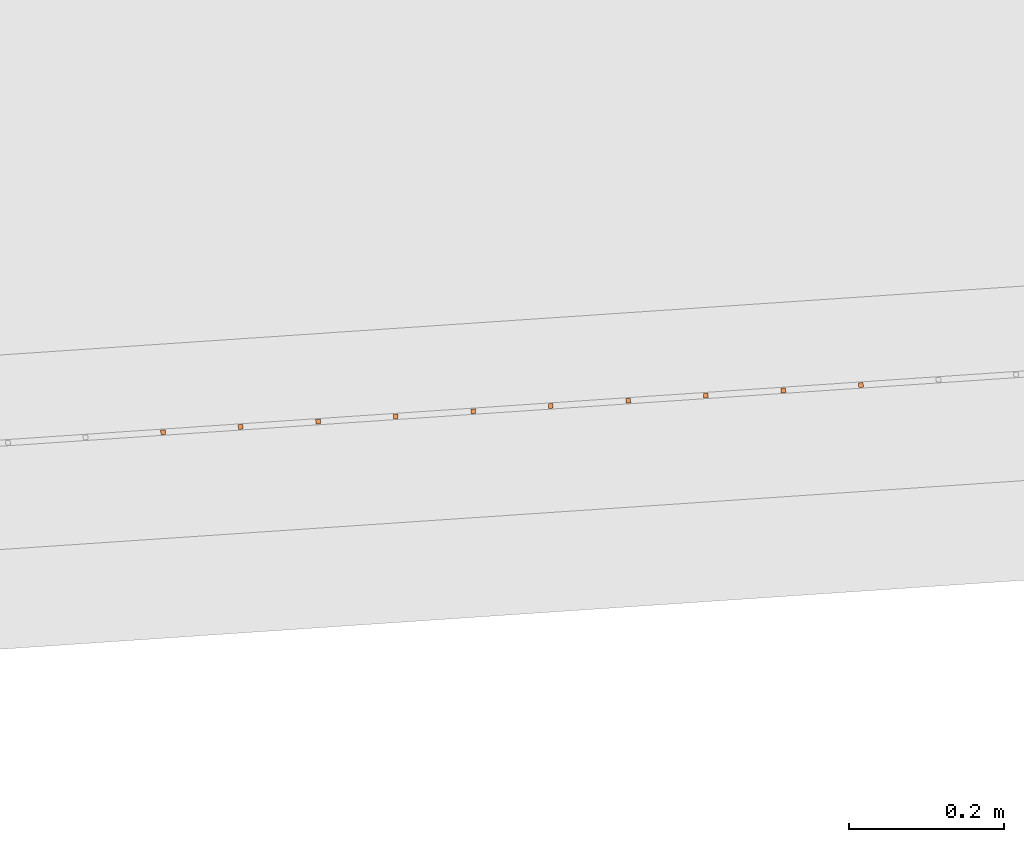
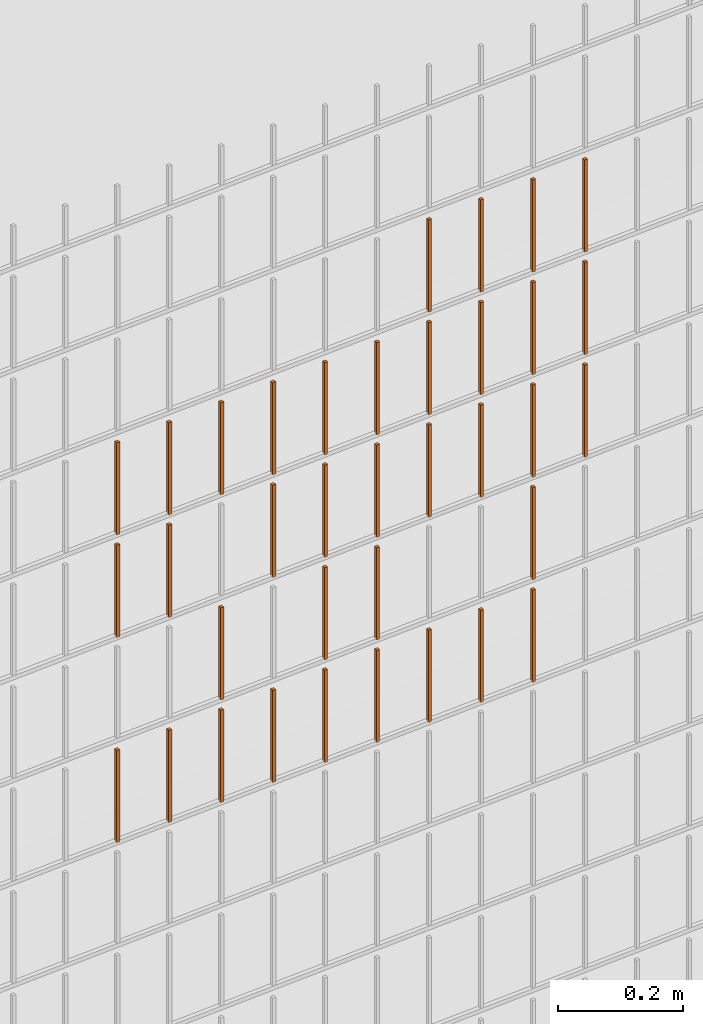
# One storey, part 158 of 1809: 36 proxies, 1 element without a shape of its own.
"""IFC2X3 building model written with IfcOpenShell, lengths in millimetres."""

from ifc_helpers import new_model, entity, si_unit, converted_unit, derived_unit, money_unit, direction, frame, origin_with_axes, place, context, subcontext, project, spatial, faceted_brep, source, transform, mapped, material, type_object, element, aggregate, save


model = new_model("IFC2X3")

# Units and contexts
model_context = context("Model", 3, precision=0.01, world=origin_with_axes(), true_north=direction((0.0, 1.0)))
body_context = subcontext(model_context, "Body", "Model", "MODEL_VIEW")
ifc_project = project(units=[si_unit("LENGTHUNIT", "METRE", prefix="MILLI"), si_unit("AREAUNIT", "SQUARE_METRE"), si_unit("VOLUMEUNIT", "CUBIC_METRE"), converted_unit("PLANEANGLEUNIT", "DEGREE", entity("IfcPlaneAngleMeasure", 0.0174532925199), si_unit("PLANEANGLEUNIT", "RADIAN"), dimensions=[0, 0, 0, 0, 0, 0, 0]), si_unit("SOLIDANGLEUNIT", "STERADIAN"), money_unit("EUR"), converted_unit("TIMEUNIT", "Year", entity("IfcTimeMeasure", 31556926.0), si_unit("TIMEUNIT", "SECOND"), dimensions=[0, 0, 1, 0, 0, 0, 0]), si_unit("MASSUNIT", "GRAM", prefix="KILO"), si_unit("THERMODYNAMICTEMPERATUREUNIT", "DEGREE_CELSIUS"), si_unit("LUMINOUSINTENSITYUNIT", "LUMEN"), si_unit("ENERGYUNIT", "JOULE", prefix="MEGA"), derived_unit("THERMALCONDUCTANCEUNIT", [(si_unit("POWERUNIT", "WATT"), 1), (si_unit("LENGTHUNIT", "METRE"), -1), (si_unit("THERMODYNAMICTEMPERATUREUNIT", "KELVIN"), -1)]), derived_unit("SPECIFICHEATCAPACITYUNIT", [(si_unit("ENERGYUNIT", "JOULE"), 1), (si_unit("MASSUNIT", "GRAM", prefix="KILO"), -1), (si_unit("THERMODYNAMICTEMPERATUREUNIT", "KELVIN"), -1)]), derived_unit("MASSDENSITYUNIT", [(si_unit("MASSUNIT", "GRAM", prefix="KILO"), 1), (si_unit("VOLUMEUNIT", "CUBIC_METRE"), -1)])], contexts=[model_context])

# Site, building, storey
site_placement = place(None, origin_with_axes())
site = spatial("IfcSite", under=ifc_project, at=site_placement, Name="Politse- ja Piirivalveameti ning Päästeameti ühishoone", CompositionType="ELEMENT")
building_placement = place(site_placement, origin_with_axes())
building = spatial("IfcBuilding", under=site, at=building_placement, Name="Politse- ja Piirivalveameti ning Päästeameti ühishoone", CompositionType="ELEMENT")
storey_placement = place(building_placement, origin_with_axes())
storey = spatial("IfcBuildingStorey", under=building, at=storey_placement, Name="Esimene korrus", CompositionType="ELEMENT", Elevation=0.0)

# Proxies
building_element_proxy_type_1 = type_object("IfcBuildingElementProxyType", Name="Railing Type", PredefinedType="NOTDEFINED")
proxy_1_placement = place(storey_placement, frame((89252.001212, -29183.4766571, 203.661247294), z_axis=(0.0, 0.0, 1.0), x_axis=(1.0, 0.0, 0.0)))
proxy_1 = element("IfcBuildingElementProxy", 1, at=proxy_1_placement, inside=storey, type_object=building_element_proxy_type_1, Name="PIIRDEAED")
ifc_material = material(Name="ET-03_Raud")
building_element_proxy_type_2 = type_object("IfcBuildingElementProxyType", Name="IfcBuildingElementProxy", PredefinedType="NOTDEFINED")
shared_shape_1 = source(origin_with_axes(), body_context, "Body", "Brep", [
    faceted_brep([(3.0, 3.0, -0.000752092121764), (-3.0, 3.0, -0.000752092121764), (-3.0, 3.0, 179.99926046), (3.0, 3.0, 179.99926046), (3.0, -3.0, 0.000752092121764), (-3.0, -3.0, 0.000752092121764), (-3.0, -3.0, 180.000764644), (3.0, -3.0, 180.000764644)], [[[0, 1, 2, 3]], [[0, 4, 5, 1]], [[1, 5, 6, 2]], [[3, 2, 6, 7]], [[4, 0, 3, 7]], [[5, 4, 7, 6]]]),
])
proxy_2_placement = place(proxy_1_placement, frame((-80343.6129789, -22724.6826125, 807.046556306), z_axis=(0.0, 0.0, 1.0), x_axis=(1.0, 0.0, 0.0)))
proxy_2 = element("IfcBuildingElementProxy", 2, at=proxy_2_placement, type_object=building_element_proxy_type_2, material=ifc_material, Name="BALUSTER - 001", context=body_context, shape_type="MappedRepresentation", body=[
    mapped(shared_shape_1, transform((0.0, 0.0, 0.0), x_axis=(-0.0673926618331, 0.997726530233, 0.0), y_axis=(-0.997726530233, -0.0673926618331, 0.0), z_axis=(0.0, 0.0, 1.0))),
])
proxy_3_placement = place(proxy_1_placement, frame((-81042.0215501, -22771.8574758, 806.871068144), z_axis=(0.0, 0.0, 1.0), x_axis=(1.0, 0.0, 0.0)))
proxy_3 = element("IfcBuildingElementProxy", 3, at=proxy_3_placement, type_object=building_element_proxy_type_2, material=ifc_material, Name="BALUSTER - 001", context=body_context, shape_type="MappedRepresentation", body=[
    mapped(shared_shape_1, transform((0.0, 0.0, 0.0), x_axis=(-0.0673926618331, 0.997726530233, 0.0), y_axis=(-0.997726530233, -0.0673926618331, 0.0), z_axis=(0.0, 0.0, 1.0))),
])
proxy_4_placement = place(proxy_1_placement, frame((-80343.6129789, -22724.6826125, 1207.04655631), z_axis=(0.0, 0.0, 1.0), x_axis=(1.0, 0.0, 0.0)))
proxy_4 = element("IfcBuildingElementProxy", 4, at=proxy_4_placement, type_object=building_element_proxy_type_2, material=ifc_material, Name="BALUSTER - 001", context=body_context, shape_type="MappedRepresentation", body=[
    mapped(shared_shape_1, transform((0.0, 0.0, 0.0), x_axis=(-0.0673926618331, 0.997726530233, 0.0), y_axis=(-0.997726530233, -0.0673926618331, 0.0), z_axis=(0.0, 0.0, 1.0))),
])
proxy_5_placement = place(proxy_1_placement, frame((-81042.0215501, -22771.8574758, 1206.87106814), z_axis=(0.0, 0.0, 1.0), x_axis=(1.0, 0.0, 0.0)))
proxy_5 = element("IfcBuildingElementProxy", 5, at=proxy_5_placement, type_object=building_element_proxy_type_2, material=ifc_material, Name="BALUSTER - 001", context=body_context, shape_type="MappedRepresentation", body=[
    mapped(shared_shape_1, transform((0.0, 0.0, 0.0), x_axis=(-0.0673926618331, 0.997726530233, 0.0), y_axis=(-0.997726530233, -0.0673926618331, 0.0), z_axis=(0.0, 0.0, 1.0))),
])
shared_shape_2 = source(origin_with_axes(), body_context, "Body", "Brep", [
    faceted_brep([(3.0, 3.0, -0.000752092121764), (-3.0, 3.0, -0.000752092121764), (-3.0, 3.0, 179.99926046), (3.0, 3.0, 179.99926046), (3.0, -3.0, 0.000752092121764), (-3.0, -3.0, 0.000752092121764), (-3.0, -3.0, 180.000764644), (3.0, -3.0, 180.000764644)], [[[0, 1, 2, 3]], [[0, 4, 5, 1]], [[1, 5, 6, 2]], [[3, 2, 6, 7]], [[4, 0, 3, 7]], [[5, 4, 7, 6]]]),
])
proxy_6_placement = place(proxy_1_placement, frame((-80343.6129789, -22724.6826125, 1407.04655631), z_axis=(0.0, 0.0, 1.0), x_axis=(1.0, 0.0, 0.0)))
proxy_6 = element("IfcBuildingElementProxy", 6, at=proxy_6_placement, type_object=building_element_proxy_type_2, material=ifc_material, Name="BALUSTER - 001", context=body_context, shape_type="MappedRepresentation", body=[
    mapped(shared_shape_2, transform((0.0, 0.0, 0.0), x_axis=(-0.0673926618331, 0.997726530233, 0.0), y_axis=(-0.997726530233, -0.0673926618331, 0.0), z_axis=(0.0, 0.0, 1.0))),
])
proxy_7_placement = place(proxy_1_placement, frame((-81042.0215501, -22771.8574758, 1406.87106814), z_axis=(0.0, 0.0, 1.0), x_axis=(1.0, 0.0, 0.0)))
proxy_7 = element("IfcBuildingElementProxy", 7, at=proxy_7_placement, type_object=building_element_proxy_type_2, material=ifc_material, Name="BALUSTER - 001", context=body_context, shape_type="MappedRepresentation", body=[
    mapped(shared_shape_2, transform((0.0, 0.0, 0.0), x_axis=(-0.0673926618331, 0.997726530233, 0.0), y_axis=(-0.997726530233, -0.0673926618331, 0.0), z_axis=(0.0, 0.0, 1.0))),
])
proxy_8_placement = place(proxy_1_placement, frame((-80343.6129789, -22724.6826125, 1607.04655631), z_axis=(0.0, 0.0, 1.0), x_axis=(1.0, 0.0, 0.0)))
proxy_8 = element("IfcBuildingElementProxy", 8, at=proxy_8_placement, type_object=building_element_proxy_type_2, material=ifc_material, Name="BALUSTER - 001", context=body_context, shape_type="MappedRepresentation", body=[
    mapped(shared_shape_2, transform((0.0, 0.0, 0.0), x_axis=(-0.0673926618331, 0.997726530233, 0.0), y_axis=(-0.997726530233, -0.0673926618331, 0.0), z_axis=(0.0, 0.0, 1.0))),
])
shared_shape_3 = source(origin_with_axes(), body_context, "Body", "Brep", [
    faceted_brep([(3.0, 3.0, -0.000752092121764), (-3.0, 3.0, -0.000752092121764), (-3.0, 3.0, 179.99926046), (3.0, 3.0, 179.99926046), (3.0, -3.0, 0.000752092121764), (-3.0, -3.0, 0.000752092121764), (-3.0, -3.0, 180.000764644), (3.0, -3.0, 180.000764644)], [[[0, 1, 2, 3]], [[0, 4, 5, 1]], [[1, 5, 6, 2]], [[3, 2, 6, 7]], [[4, 0, 3, 7]], [[5, 4, 7, 6]]]),
])
proxy_9_placement = place(proxy_1_placement, frame((-81141.7942031, -22778.5967419, 806.845998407), z_axis=(0.0, 0.0, 1.0), x_axis=(1.0, 0.0, 0.0)))
proxy_9 = element("IfcBuildingElementProxy", 9, at=proxy_9_placement, type_object=building_element_proxy_type_2, material=ifc_material, Name="BALUSTER - 001", context=body_context, shape_type="MappedRepresentation", body=[
    mapped(shared_shape_3, transform((0.0, 0.0, 0.0), x_axis=(-0.0673926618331, 0.997726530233, 0.0), y_axis=(-0.997726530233, -0.0673926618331, 0.0), z_axis=(0.0, 0.0, 1.0))),
])
shared_shape_4 = source(origin_with_axes(), body_context, "Body", "Brep", [
    faceted_brep([(3.0, 3.0, -0.000752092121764), (-3.0, 3.0, -0.000752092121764), (-3.0, 3.0, 179.99926046), (3.0, 3.0, 179.99926046), (3.0, -3.0, 0.000752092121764), (-3.0, -3.0, 0.000752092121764), (-3.0, -3.0, 180.000764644), (3.0, -3.0, 180.000764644)], [[[0, 1, 2, 3]], [[0, 4, 5, 1]], [[1, 5, 6, 2]], [[3, 2, 6, 7]], [[4, 0, 3, 7]], [[5, 4, 7, 6]]]),
])
proxy_10_placement = place(proxy_1_placement, frame((-81141.7942031, -22778.5967419, 1206.84599841), z_axis=(0.0, 0.0, 1.0), x_axis=(1.0, 0.0, 0.0)))
proxy_10 = element("IfcBuildingElementProxy", 10, at=proxy_10_placement, type_object=building_element_proxy_type_2, material=ifc_material, Name="BALUSTER - 001", context=body_context, shape_type="MappedRepresentation", body=[
    mapped(shared_shape_4, transform((0.0, 0.0, 0.0), x_axis=(-0.0673926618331, 0.997726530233, 0.0), y_axis=(-0.997726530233, -0.0673926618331, 0.0), z_axis=(0.0, 0.0, 1.0))),
])
shared_shape_5 = source(origin_with_axes(), body_context, "Body", "Brep", [
    faceted_brep([(3.0, 3.0, -0.000752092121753), (-3.0, 3.0, -0.000752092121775), (-3.0, 3.0, 179.99926046), (3.0, 3.0, 179.99926046), (3.0, -3.0, 0.000752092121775), (-3.0, -3.0, 0.000752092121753), (-3.0, -3.0, 180.000764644), (3.0, -3.0, 180.000764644)], [[[0, 1, 2, 3]], [[0, 4, 5, 1]], [[1, 5, 6, 2]], [[3, 2, 6, 7]], [[4, 0, 3, 7]], [[5, 4, 7, 6]]]),
])
proxy_11_placement = place(proxy_1_placement, frame((-80742.703591, -22751.6396772, 1206.94627736), z_axis=(0.0, 0.0, 1.0), x_axis=(1.0, 0.0, 0.0)))
proxy_11 = element("IfcBuildingElementProxy", 11, at=proxy_11_placement, type_object=building_element_proxy_type_2, material=ifc_material, Name="BALUSTER - 001", context=body_context, shape_type="MappedRepresentation", body=[
    mapped(shared_shape_5, transform((0.0, 0.0, 0.0), x_axis=(-0.0673926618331, 0.997726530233, 0.0), y_axis=(-0.997726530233, -0.0673926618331, 0.0), z_axis=(0.0, 0.0, 1.0))),
])
shared_shape_6 = source(origin_with_axes(), body_context, "Body", "Brep", [
    faceted_brep([(3.0, 3.0, -0.000752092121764), (-3.0, 3.0, -0.000752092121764), (-3.0, 3.0, 179.99926046), (3.0, 3.0, 179.99926046), (3.0, -3.0, 0.000752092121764), (-3.0, -3.0, 0.000752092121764), (-3.0, -3.0, 180.000764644), (3.0, -3.0, 180.000764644)], [[[0, 1, 2, 3]], [[0, 4, 5, 1]], [[1, 5, 6, 2]], [[3, 2, 6, 7]], [[4, 0, 3, 7]], [[5, 4, 7, 6]]]),
])
proxy_12_placement = place(proxy_1_placement, frame((-80443.385632, -22731.4218787, 807.021486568), z_axis=(0.0, 0.0, 1.0), x_axis=(1.0, 0.0, 0.0)))
proxy_12 = element("IfcBuildingElementProxy", 12, at=proxy_12_placement, type_object=building_element_proxy_type_2, material=ifc_material, Name="BALUSTER - 001", context=body_context, shape_type="MappedRepresentation", body=[
    mapped(shared_shape_6, transform((0.0, 0.0, 0.0), x_axis=(-0.0673926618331, 0.997726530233, 0.0), y_axis=(-0.997726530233, -0.0673926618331, 0.0), z_axis=(0.0, 0.0, 1.0))),
])
shared_shape_7 = source(origin_with_axes(), body_context, "Body", "Brep", [
    faceted_brep([(3.0, 3.0, -0.000752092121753), (-3.0, 3.0, -0.000752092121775), (-3.0, 3.0, 179.99926046), (3.0, 3.0, 179.99926046), (3.0, -3.0, 0.000752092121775), (-3.0, -3.0, 0.000752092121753), (-3.0, -3.0, 180.000764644), (3.0, -3.0, 180.000764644)], [[[0, 1, 2, 3]], [[0, 4, 5, 1]], [[1, 5, 6, 2]], [[3, 2, 6, 7]], [[4, 0, 3, 7]], [[5, 4, 7, 6]]]),
])
proxy_13_placement = place(proxy_1_placement, frame((-80543.158285, -22738.1611448, 806.996416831), z_axis=(0.0, 0.0, 1.0), x_axis=(1.0, 0.0, 0.0)))
proxy_13 = element("IfcBuildingElementProxy", 13, at=proxy_13_placement, type_object=building_element_proxy_type_2, material=ifc_material, Name="BALUSTER - 001", context=body_context, shape_type="MappedRepresentation", body=[
    mapped(shared_shape_7, transform((0.0, 0.0, 0.0), x_axis=(-0.0673926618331, 0.997726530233, 0.0), y_axis=(-0.997726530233, -0.0673926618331, 0.0), z_axis=(0.0, 0.0, 1.0))),
])
proxy_14_placement = place(proxy_1_placement, frame((-80842.4762441, -22758.3789434, 806.921207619), z_axis=(0.0, 0.0, 1.0), x_axis=(1.0, 0.0, 0.0)))
proxy_14 = element("IfcBuildingElementProxy", 14, at=proxy_14_placement, type_object=building_element_proxy_type_2, material=ifc_material, Name="BALUSTER - 001", context=body_context, shape_type="MappedRepresentation", body=[
    mapped(shared_shape_7, transform((0.0, 0.0, 0.0), x_axis=(-0.0673926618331, 0.997726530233, 0.0), y_axis=(-0.997726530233, -0.0673926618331, 0.0), z_axis=(0.0, 0.0, 1.0))),
])
shared_shape_8 = source(origin_with_axes(), body_context, "Body", "Brep", [
    faceted_brep([(3.0, 3.0, -0.000752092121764), (-3.0, 3.0, -0.000752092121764), (-3.0, 3.0, 179.99926046), (3.0, 3.0, 179.99926046), (3.0, -3.0, 0.000752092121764), (-3.0, -3.0, 0.000752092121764), (-3.0, -3.0, 180.000764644), (3.0, -3.0, 180.000764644)], [[[0, 1, 2, 3]], [[0, 4, 5, 1]], [[1, 5, 6, 2]], [[3, 2, 6, 7]], [[4, 0, 3, 7]], [[5, 4, 7, 6]]]),
])
proxy_15_placement = place(proxy_1_placement, frame((-81141.7942031, -22778.5967419, 1406.84599841), z_axis=(0.0, 0.0, 1.0), x_axis=(1.0, 0.0, 0.0)))
proxy_15 = element("IfcBuildingElementProxy", 15, at=proxy_15_placement, type_object=building_element_proxy_type_2, material=ifc_material, Name="BALUSTER - 001", context=body_context, shape_type="MappedRepresentation", body=[
    mapped(shared_shape_8, transform((0.0, 0.0, 0.0), x_axis=(-0.0673926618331, 0.997726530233, 0.0), y_axis=(-0.997726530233, -0.0673926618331, 0.0), z_axis=(0.0, 0.0, 1.0))),
])
shared_shape_9 = source(origin_with_axes(), body_context, "Body", "Brep", [
    faceted_brep([(3.0, 3.0, -0.000752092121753), (-3.0, 3.0, -0.000752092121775), (-3.0, 3.0, 179.99926046), (3.0, 3.0, 179.99926046), (3.0, -3.0, 0.000752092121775), (-3.0, -3.0, 0.000752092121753), (-3.0, -3.0, 180.000764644), (3.0, -3.0, 180.000764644)], [[[0, 1, 2, 3]], [[0, 4, 5, 1]], [[1, 5, 6, 2]], [[3, 2, 6, 7]], [[4, 0, 3, 7]], [[5, 4, 7, 6]]]),
])
proxy_16_placement = place(proxy_1_placement, frame((-80742.703591, -22751.6396772, 1406.94627736), z_axis=(0.0, 0.0, 1.0), x_axis=(1.0, 0.0, 0.0)))
proxy_16 = element("IfcBuildingElementProxy", 16, at=proxy_16_placement, type_object=building_element_proxy_type_2, material=ifc_material, Name="BALUSTER - 001", context=body_context, shape_type="MappedRepresentation", body=[
    mapped(shared_shape_9, transform((0.0, 0.0, 0.0), x_axis=(-0.0673926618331, 0.997726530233, 0.0), y_axis=(-0.997726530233, -0.0673926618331, 0.0), z_axis=(0.0, 0.0, 1.0))),
])
shared_shape_10 = source(origin_with_axes(), body_context, "Body", "Brep", [
    faceted_brep([(3.0, 3.0, -0.000752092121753), (-3.0, 3.0, -0.000752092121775), (-3.0, 3.0, 179.99926046), (3.0, 3.0, 179.99926046), (3.0, -3.0, 0.000752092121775), (-3.0, -3.0, 0.000752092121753), (-3.0, -3.0, 180.000764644), (3.0, -3.0, 180.000764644)], [[[0, 1, 2, 3]], [[0, 4, 5, 1]], [[1, 5, 6, 2]], [[3, 2, 6, 7]], [[4, 0, 3, 7]], [[5, 4, 7, 6]]]),
])
proxy_17_placement = place(proxy_1_placement, frame((-80543.158285, -22738.1611448, 1206.99641683), z_axis=(0.0, 0.0, 1.0), x_axis=(1.0, 0.0, 0.0)))
proxy_17 = element("IfcBuildingElementProxy", 17, at=proxy_17_placement, type_object=building_element_proxy_type_2, material=ifc_material, Name="BALUSTER - 001", context=body_context, shape_type="MappedRepresentation", body=[
    mapped(shared_shape_10, transform((0.0, 0.0, 0.0), x_axis=(-0.0673926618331, 0.997726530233, 0.0), y_axis=(-0.997726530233, -0.0673926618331, 0.0), z_axis=(0.0, 0.0, 1.0))),
])
shared_shape_11 = source(origin_with_axes(), body_context, "Body", "Brep", [
    faceted_brep([(3.0, 3.0, -0.000752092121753), (-3.0, 3.0, -0.000752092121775), (-3.0, 3.0, 179.99926046), (3.0, 3.0, 179.99926046), (3.0, -3.0, 0.000752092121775), (-3.0, -3.0, 0.000752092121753), (-3.0, -3.0, 180.000764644), (3.0, -3.0, 180.000764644)], [[[0, 1, 2, 3]], [[0, 4, 5, 1]], [[1, 5, 6, 2]], [[3, 2, 6, 7]], [[4, 0, 3, 7]], [[5, 4, 7, 6]]]),
])
proxy_18_placement = place(proxy_1_placement, frame((-80243.8403259, -22717.9433463, 1207.07162604), z_axis=(0.0, 0.0, 1.0), x_axis=(1.0, 0.0, 0.0)))
proxy_18 = element("IfcBuildingElementProxy", 18, at=proxy_18_placement, type_object=building_element_proxy_type_2, material=ifc_material, Name="BALUSTER - 001", context=body_context, shape_type="MappedRepresentation", body=[
    mapped(shared_shape_11, transform((0.0, 0.0, 0.0), x_axis=(-0.0673926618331, 0.997726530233, 0.0), y_axis=(-0.997726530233, -0.0673926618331, 0.0), z_axis=(0.0, 0.0, 1.0))),
])
proxy_19_placement = place(proxy_1_placement, frame((-80842.4762441, -22758.3789434, 1206.92120762), z_axis=(0.0, 0.0, 1.0), x_axis=(1.0, 0.0, 0.0)))
proxy_19 = element("IfcBuildingElementProxy", 19, at=proxy_19_placement, type_object=building_element_proxy_type_2, material=ifc_material, Name="BALUSTER - 001", context=body_context, shape_type="MappedRepresentation", body=[
    mapped(shared_shape_11, transform((0.0, 0.0, 0.0), x_axis=(-0.0673926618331, 0.997726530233, 0.0), y_axis=(-0.997726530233, -0.0673926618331, 0.0), z_axis=(0.0, 0.0, 1.0))),
])
shared_shape_12 = source(origin_with_axes(), body_context, "Body", "Brep", [
    faceted_brep([(3.0, 3.0, -0.000752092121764), (-3.0, 3.0, -0.000752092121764), (-3.0, 3.0, 179.99926046), (3.0, 3.0, 179.99926046), (3.0, -3.0, 0.000752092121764), (-3.0, -3.0, 0.000752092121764), (-3.0, -3.0, 180.000764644), (3.0, -3.0, 180.000764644)], [[[0, 1, 2, 3]], [[0, 4, 5, 1]], [[1, 5, 6, 2]], [[3, 2, 6, 7]], [[4, 0, 3, 7]], [[5, 4, 7, 6]]]),
])
proxy_20_placement = place(proxy_1_placement, frame((-80443.385632, -22731.4218787, 1207.02148657), z_axis=(0.0, 0.0, 1.0), x_axis=(1.0, 0.0, 0.0)))
proxy_20 = element("IfcBuildingElementProxy", 20, at=proxy_20_placement, type_object=building_element_proxy_type_2, material=ifc_material, Name="BALUSTER - 001", context=body_context, shape_type="MappedRepresentation", body=[
    mapped(shared_shape_12, transform((0.0, 0.0, 0.0), x_axis=(-0.0673926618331, 0.997726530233, 0.0), y_axis=(-0.997726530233, -0.0673926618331, 0.0), z_axis=(0.0, 0.0, 1.0))),
])
shared_shape_13 = source(origin_with_axes(), body_context, "Body", "Brep", [
    faceted_brep([(3.0, 3.0, -0.000752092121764), (-3.0, 3.0, -0.000752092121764), (-3.0, 3.0, 179.99926046), (3.0, 3.0, 179.99926046), (3.0, -3.0, 0.000752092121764), (-3.0, -3.0, 0.000752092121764), (-3.0, -3.0, 180.000764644), (3.0, -3.0, 180.000764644)], [[[0, 1, 2, 3]], [[0, 4, 5, 1]], [[1, 5, 6, 2]], [[3, 2, 6, 7]], [[4, 0, 3, 7]], [[5, 4, 7, 6]]]),
])
proxy_21_placement = place(proxy_1_placement, frame((-80642.930938, -22744.900411, 806.971347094), z_axis=(0.0, 0.0, 1.0), x_axis=(1.0, 0.0, 0.0)))
proxy_21 = element("IfcBuildingElementProxy", 21, at=proxy_21_placement, type_object=building_element_proxy_type_2, material=ifc_material, Name="BALUSTER - 001", context=body_context, shape_type="MappedRepresentation", body=[
    mapped(shared_shape_13, transform((0.0, 0.0, 0.0), x_axis=(-0.0673926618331, 0.997726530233, 0.0), y_axis=(-0.997726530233, -0.0673926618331, 0.0), z_axis=(0.0, 0.0, 1.0))),
])
proxy_22_placement = place(proxy_1_placement, frame((-80642.930938, -22744.900411, 1206.97134709), z_axis=(0.0, 0.0, 1.0), x_axis=(1.0, 0.0, 0.0)))
proxy_22 = element("IfcBuildingElementProxy", 22, at=proxy_22_placement, type_object=building_element_proxy_type_2, material=ifc_material, Name="BALUSTER - 001", context=body_context, shape_type="MappedRepresentation", body=[
    mapped(shared_shape_13, transform((0.0, 0.0, 0.0), x_axis=(-0.0673926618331, 0.997726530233, 0.0), y_axis=(-0.997726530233, -0.0673926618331, 0.0), z_axis=(0.0, 0.0, 1.0))),
])
shared_shape_14 = source(origin_with_axes(), body_context, "Body", "Brep", [
    faceted_brep([(3.0, 3.0, -0.000752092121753), (-3.0, 3.0, -0.000752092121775), (-3.0, 3.0, 179.99926046), (3.0, 3.0, 179.99926046), (3.0, -3.0, 0.000752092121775), (-3.0, -3.0, 0.000752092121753), (-3.0, -3.0, 180.000764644), (3.0, -3.0, 180.000764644)], [[[0, 1, 2, 3]], [[0, 4, 5, 1]], [[1, 5, 6, 2]], [[3, 2, 6, 7]], [[4, 0, 3, 7]], [[5, 4, 7, 6]]]),
])
proxy_23_placement = place(proxy_1_placement, frame((-80742.703591, -22751.6396772, 806.946277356), z_axis=(0.0, 0.0, 1.0), x_axis=(1.0, 0.0, 0.0)))
proxy_23 = element("IfcBuildingElementProxy", 23, at=proxy_23_placement, type_object=building_element_proxy_type_2, material=ifc_material, Name="BALUSTER - 001", context=body_context, shape_type="MappedRepresentation", body=[
    mapped(shared_shape_14, transform((0.0, 0.0, 0.0), x_axis=(-0.0673926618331, 0.997726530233, 0.0), y_axis=(-0.997726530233, -0.0673926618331, 0.0), z_axis=(0.0, 0.0, 1.0))),
])
shared_shape_15 = source(origin_with_axes(), body_context, "Body", "Brep", [
    faceted_brep([(3.0, 3.0, -0.000752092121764), (-3.0, 3.0, -0.000752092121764), (-3.0, 3.0, 179.99926046), (3.0, 3.0, 179.99926046), (3.0, -3.0, 0.000752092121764), (-3.0, -3.0, 0.000752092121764), (-3.0, -3.0, 180.000764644), (3.0, -3.0, 180.000764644)], [[[0, 1, 2, 3]], [[0, 4, 5, 1]], [[1, 5, 6, 2]], [[3, 2, 6, 7]], [[4, 0, 3, 7]], [[5, 4, 7, 6]]]),
])
proxy_24_placement = place(proxy_1_placement, frame((-80642.930938, -22744.900411, 1406.97134709), z_axis=(0.0, 0.0, 1.0), x_axis=(1.0, 0.0, 0.0)))
proxy_24 = element("IfcBuildingElementProxy", 24, at=proxy_24_placement, type_object=building_element_proxy_type_2, material=ifc_material, Name="BALUSTER - 001", context=body_context, shape_type="MappedRepresentation", body=[
    mapped(shared_shape_15, transform((0.0, 0.0, 0.0), x_axis=(-0.0673926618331, 0.997726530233, 0.0), y_axis=(-0.997726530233, -0.0673926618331, 0.0), z_axis=(0.0, 0.0, 1.0))),
])
shared_shape_16 = source(origin_with_axes(), body_context, "Body", "Brep", [
    faceted_brep([(3.0, 3.0, -0.000752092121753), (-3.0, 3.0, -0.000752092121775), (-3.0, 3.0, 179.99926046), (3.0, 3.0, 179.99926046), (3.0, -3.0, 0.000752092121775), (-3.0, -3.0, 0.000752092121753), (-3.0, -3.0, 180.000764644), (3.0, -3.0, 180.000764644)], [[[0, 1, 2, 3]], [[0, 4, 5, 1]], [[1, 5, 6, 2]], [[3, 2, 6, 7]], [[4, 0, 3, 7]], [[5, 4, 7, 6]]]),
])
proxy_25_placement = place(proxy_1_placement, frame((-80543.158285, -22738.1611448, 1406.99641683), z_axis=(0.0, 0.0, 1.0), x_axis=(1.0, 0.0, 0.0)))
proxy_25 = element("IfcBuildingElementProxy", 25, at=proxy_25_placement, type_object=building_element_proxy_type_2, material=ifc_material, Name="BALUSTER - 001", context=body_context, shape_type="MappedRepresentation", body=[
    mapped(shared_shape_16, transform((0.0, 0.0, 0.0), x_axis=(-0.0673926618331, 0.997726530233, 0.0), y_axis=(-0.997726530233, -0.0673926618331, 0.0), z_axis=(0.0, 0.0, 1.0))),
])
proxy_26_placement = place(proxy_1_placement, frame((-80543.158285, -22738.1611448, 1606.99641683), z_axis=(0.0, 0.0, 1.0), x_axis=(1.0, 0.0, 0.0)))
proxy_26 = element("IfcBuildingElementProxy", 26, at=proxy_26_placement, type_object=building_element_proxy_type_2, material=ifc_material, Name="BALUSTER - 001", context=body_context, shape_type="MappedRepresentation", body=[
    mapped(shared_shape_16, transform((0.0, 0.0, 0.0), x_axis=(-0.0673926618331, 0.997726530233, 0.0), y_axis=(-0.997726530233, -0.0673926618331, 0.0), z_axis=(0.0, 0.0, 1.0))),
])
shared_shape_17 = source(origin_with_axes(), body_context, "Body", "Brep", [
    faceted_brep([(3.0, 3.0, -0.000752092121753), (-3.0, 3.0, -0.000752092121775), (-3.0, 3.0, 179.99926046), (3.0, 3.0, 179.99926046), (3.0, -3.0, 0.000752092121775), (-3.0, -3.0, 0.000752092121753), (-3.0, -3.0, 180.000764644), (3.0, -3.0, 180.000764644)], [[[0, 1, 2, 3]], [[0, 4, 5, 1]], [[1, 5, 6, 2]], [[3, 2, 6, 7]], [[4, 0, 3, 7]], [[5, 4, 7, 6]]]),
])
proxy_27_placement = place(proxy_1_placement, frame((-80243.8403259, -22717.9433463, 1407.07162604), z_axis=(0.0, 0.0, 1.0), x_axis=(1.0, 0.0, 0.0)))
proxy_27 = element("IfcBuildingElementProxy", 27, at=proxy_27_placement, type_object=building_element_proxy_type_2, material=ifc_material, Name="BALUSTER - 001", context=body_context, shape_type="MappedRepresentation", body=[
    mapped(shared_shape_17, transform((0.0, 0.0, 0.0), x_axis=(-0.0673926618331, 0.997726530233, 0.0), y_axis=(-0.997726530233, -0.0673926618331, 0.0), z_axis=(0.0, 0.0, 1.0))),
])
proxy_28_placement = place(proxy_1_placement, frame((-80842.4762441, -22758.3789434, 1406.92120762), z_axis=(0.0, 0.0, 1.0), x_axis=(1.0, 0.0, 0.0)))
proxy_28 = element("IfcBuildingElementProxy", 28, at=proxy_28_placement, type_object=building_element_proxy_type_2, material=ifc_material, Name="BALUSTER - 001", context=body_context, shape_type="MappedRepresentation", body=[
    mapped(shared_shape_17, transform((0.0, 0.0, 0.0), x_axis=(-0.0673926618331, 0.997726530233, 0.0), y_axis=(-0.997726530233, -0.0673926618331, 0.0), z_axis=(0.0, 0.0, 1.0))),
])
proxy_29_placement = place(proxy_1_placement, frame((-80243.8403259, -22717.9433463, 1607.07162604), z_axis=(0.0, 0.0, 1.0), x_axis=(1.0, 0.0, 0.0)))
proxy_29 = element("IfcBuildingElementProxy", 29, at=proxy_29_placement, type_object=building_element_proxy_type_2, material=ifc_material, Name="BALUSTER - 001", context=body_context, shape_type="MappedRepresentation", body=[
    mapped(shared_shape_17, transform((0.0, 0.0, 0.0), x_axis=(-0.0673926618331, 0.997726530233, 0.0), y_axis=(-0.997726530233, -0.0673926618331, 0.0), z_axis=(0.0, 0.0, 1.0))),
])
shared_shape_18 = source(origin_with_axes(), body_context, "Body", "Brep", [
    faceted_brep([(3.0, 3.0, -0.000752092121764), (-3.0, 3.0, -0.000752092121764), (-3.0, 3.0, 179.99926046), (3.0, 3.0, 179.99926046), (3.0, -3.0, 0.000752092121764), (-3.0, -3.0, 0.000752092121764), (-3.0, -3.0, 180.000764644), (3.0, -3.0, 180.000764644)], [[[0, 1, 2, 3]], [[0, 4, 5, 1]], [[1, 5, 6, 2]], [[3, 2, 6, 7]], [[4, 0, 3, 7]], [[5, 4, 7, 6]]]),
])
proxy_30_placement = place(proxy_1_placement, frame((-80443.385632, -22731.4218787, 1407.02148657), z_axis=(0.0, 0.0, 1.0), x_axis=(1.0, 0.0, 0.0)))
proxy_30 = element("IfcBuildingElementProxy", 30, at=proxy_30_placement, type_object=building_element_proxy_type_2, material=ifc_material, Name="BALUSTER - 001", context=body_context, shape_type="MappedRepresentation", body=[
    mapped(shared_shape_18, transform((0.0, 0.0, 0.0), x_axis=(-0.0673926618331, 0.997726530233, 0.0), y_axis=(-0.997726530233, -0.0673926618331, 0.0), z_axis=(0.0, 0.0, 1.0))),
])
proxy_31_placement = place(proxy_1_placement, frame((-80443.385632, -22731.4218787, 1607.02148657), z_axis=(0.0, 0.0, 1.0), x_axis=(1.0, 0.0, 0.0)))
proxy_31 = element("IfcBuildingElementProxy", 31, at=proxy_31_placement, type_object=building_element_proxy_type_2, material=ifc_material, Name="BALUSTER - 001", context=body_context, shape_type="MappedRepresentation", body=[
    mapped(shared_shape_18, transform((0.0, 0.0, 0.0), x_axis=(-0.0673926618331, 0.997726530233, 0.0), y_axis=(-0.997726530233, -0.0673926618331, 0.0), z_axis=(0.0, 0.0, 1.0))),
])
shared_shape_19 = source(origin_with_axes(), body_context, "Body", "Brep", [
    faceted_brep([(3.0, 3.0, -0.000752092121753), (-3.0, 3.0, -0.000752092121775), (-3.0, 3.0, 179.99926046), (3.0, 3.0, 179.99926046), (3.0, -3.0, 0.000752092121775), (-3.0, -3.0, 0.000752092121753), (-3.0, -3.0, 180.000764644), (3.0, -3.0, 180.000764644)], [[[0, 1, 2, 3]], [[0, 4, 5, 1]], [[1, 5, 6, 2]], [[3, 2, 6, 7]], [[4, 0, 3, 7]], [[5, 4, 7, 6]]]),
])
proxy_32_placement = place(proxy_1_placement, frame((-80942.2488971, -22765.1182096, 806.896137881), z_axis=(0.0, 0.0, 1.0), x_axis=(1.0, 0.0, 0.0)))
proxy_32 = element("IfcBuildingElementProxy", 32, at=proxy_32_placement, type_object=building_element_proxy_type_2, material=ifc_material, Name="BALUSTER - 001", context=body_context, shape_type="MappedRepresentation", body=[
    mapped(shared_shape_19, transform((0.0, 0.0, 0.0), x_axis=(-0.0673926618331, 0.997726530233, 0.0), y_axis=(-0.997726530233, -0.0673926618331, 0.0), z_axis=(0.0, 0.0, 1.0))),
])
shared_shape_20 = source(origin_with_axes(), body_context, "Body", "Brep", [
    faceted_brep([(3.0, 3.0, -0.000752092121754), (-3.0, 3.0, -0.000752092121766), (-3.00000000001, 3.0, 179.99926046), (2.99999999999, 3.0, 179.99926046), (3.0, -3.0, 0.000752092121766), (-3.0, -3.0, 0.000752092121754), (-3.00000000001, -3.0, 180.000764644), (2.99999999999, -3.0, 180.000764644)], [[[0, 1, 2, 3]], [[0, 4, 5, 1]], [[1, 5, 6, 2]], [[3, 2, 6, 7]], [[4, 0, 3, 7]], [[5, 4, 7, 6]]]),
])
proxy_33_placement = place(proxy_1_placement, frame((-80642.930938, -22744.900411, 1006.97134709), z_axis=(0.0, 0.0, 1.0), x_axis=(1.0, 0.0, 0.0)))
proxy_33 = element("IfcBuildingElementProxy", 33, at=proxy_33_placement, type_object=building_element_proxy_type_2, material=ifc_material, Name="BALUSTER - 001", context=body_context, shape_type="MappedRepresentation", body=[
    mapped(shared_shape_20, transform((0.0, 0.0, 0.0), x_axis=(-0.0673926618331, 0.997726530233, 0.0), y_axis=(-0.997726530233, -0.0673926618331, 0.0), z_axis=(0.0, 0.0, 1.0))),
])
shared_shape_21 = source(origin_with_axes(), body_context, "Body", "Brep", [
    faceted_brep([(3.0, 3.0, -0.000752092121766), (-3.0, 3.0, -0.000752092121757), (-3.00000000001, 3.0, 179.99926046), (2.99999999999, 3.0, 179.99926046), (3.0, -3.0, 0.000752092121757), (-3.0, -3.0, 0.000752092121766), (-3.00000000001, -3.0, 180.000764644), (2.99999999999, -3.0, 180.000764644)], [[[0, 1, 2, 3]], [[0, 4, 5, 1]], [[1, 5, 6, 2]], [[3, 2, 6, 7]], [[4, 0, 3, 7]], [[5, 4, 7, 6]]]),
])
proxy_34_placement = place(proxy_1_placement, frame((-80343.6129789, -22724.6826125, 1007.04655631), z_axis=(0.0, 0.0, 1.0), x_axis=(1.0, 0.0, 0.0)))
proxy_34 = element("IfcBuildingElementProxy", 34, at=proxy_34_placement, type_object=building_element_proxy_type_2, material=ifc_material, Name="BALUSTER - 001", context=body_context, shape_type="MappedRepresentation", body=[
    mapped(shared_shape_21, transform((0.0, 0.0, 0.0), x_axis=(-0.0673926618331, 0.997726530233, 0.0), y_axis=(-0.997726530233, -0.0673926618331, 0.0), z_axis=(0.0, 0.0, 1.0))),
])
shared_shape_22 = source(origin_with_axes(), body_context, "Body", "Brep", [
    faceted_brep([(3.0, 3.0, -0.000752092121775), (-3.0, 3.0, -0.000752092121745), (-3.00000000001, 3.0, 179.99926046), (2.99999999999, 3.0, 179.99926046), (3.0, -3.0, 0.000752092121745), (-3.0, -3.0, 0.000752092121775), (-3.00000000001, -3.0, 180.000764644), (2.99999999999, -3.0, 180.000764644)], [[[0, 1, 2, 3]], [[0, 4, 5, 1]], [[1, 5, 6, 2]], [[3, 2, 6, 7]], [[4, 0, 3, 7]], [[5, 4, 7, 6]]]),
])
proxy_35_placement = place(proxy_1_placement, frame((-80742.703591, -22751.6396772, 1006.94627736), z_axis=(0.0, 0.0, 1.0), x_axis=(1.0, 0.0, 0.0)))
proxy_35 = element("IfcBuildingElementProxy", 35, at=proxy_35_placement, type_object=building_element_proxy_type_2, material=ifc_material, Name="BALUSTER - 001", context=body_context, shape_type="MappedRepresentation", body=[
    mapped(shared_shape_22, transform((0.0, 0.0, 0.0), x_axis=(-0.0673926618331, 0.997726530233, 0.0), y_axis=(-0.997726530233, -0.0673926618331, 0.0), z_axis=(0.0, 0.0, 1.0))),
])
shared_shape_23 = source(origin_with_axes(), body_context, "Body", "Brep", [
    faceted_brep([(3.0, 3.0, -0.000752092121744), (-3.0, 3.0, -0.000752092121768), (-3.00000000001, 3.0, 179.99926046), (2.99999999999, 3.0, 179.99926046), (3.0, -3.0, 0.000752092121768), (-3.0, -3.0, 0.000752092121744), (-3.00000000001, -3.0, 180.000764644), (2.99999999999, -3.0, 180.000764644)], [[[0, 1, 2, 3]], [[0, 4, 5, 1]], [[1, 5, 6, 2]], [[3, 2, 6, 7]], [[4, 0, 3, 7]], [[5, 4, 7, 6]]]),
])
proxy_36_placement = place(proxy_1_placement, frame((-80942.2488971, -22765.1182096, 1006.89613788), z_axis=(0.0, 0.0, 1.0), x_axis=(1.0, 0.0, 0.0)))
proxy_36 = element("IfcBuildingElementProxy", 36, at=proxy_36_placement, type_object=building_element_proxy_type_2, material=ifc_material, Name="BALUSTER - 001", context=body_context, shape_type="MappedRepresentation", body=[
    mapped(shared_shape_23, transform((0.0, 0.0, 0.0), x_axis=(-0.0673926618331, 0.997726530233, 0.0), y_axis=(-0.997726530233, -0.0673926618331, 0.0), z_axis=(0.0, 0.0, 1.0))),
])
shared_shape_24 = source(origin_with_axes(), body_context, "Body", "Brep", [
    faceted_brep([(3.0, 3.0, -0.000752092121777), (-3.0, 3.0, -0.000752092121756), (-3.0, 3.0, 179.99926046), (3.0, 3.0, 179.99926046), (3.0, -3.0, 0.000752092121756), (-3.0, -3.0, 0.000752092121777), (-3.0, -3.0, 180.000764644), (3.0, -3.0, 180.000764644)], [[[0, 1, 2, 3]], [[0, 4, 5, 1]], [[1, 5, 6, 2]], [[3, 2, 6, 7]], [[4, 0, 3, 7]], [[5, 4, 7, 6]]]),
])
proxy_37_placement = place(proxy_1_placement, frame((-80942.2488971, -22765.1182096, 1406.89613788), z_axis=(0.0, 0.0, 1.0), x_axis=(1.0, 0.0, 0.0)))
proxy_37 = element("IfcBuildingElementProxy", 37, at=proxy_37_placement, type_object=building_element_proxy_type_2, material=ifc_material, Name="BALUSTER - 001", context=body_context, shape_type="MappedRepresentation", body=[
    mapped(shared_shape_24, transform((0.0, 0.0, 0.0), x_axis=(-0.0673926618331, 0.997726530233, 0.0), y_axis=(-0.997726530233, -0.0673926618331, 0.0), z_axis=(0.0, 0.0, 1.0))),
])
aggregate(proxy_1, [proxy_2, proxy_12, proxy_13, proxy_21, proxy_23, proxy_14, proxy_32, proxy_3, proxy_9, proxy_34, proxy_33, proxy_35, proxy_36, proxy_18, proxy_4, proxy_20, proxy_17, proxy_22, proxy_11, proxy_19, proxy_5, proxy_10, proxy_27, proxy_6, proxy_30, proxy_25, proxy_24, proxy_16, proxy_28, proxy_37, proxy_7, proxy_15, proxy_29, proxy_8, proxy_31, proxy_26])

save(model, "model.ifc")
